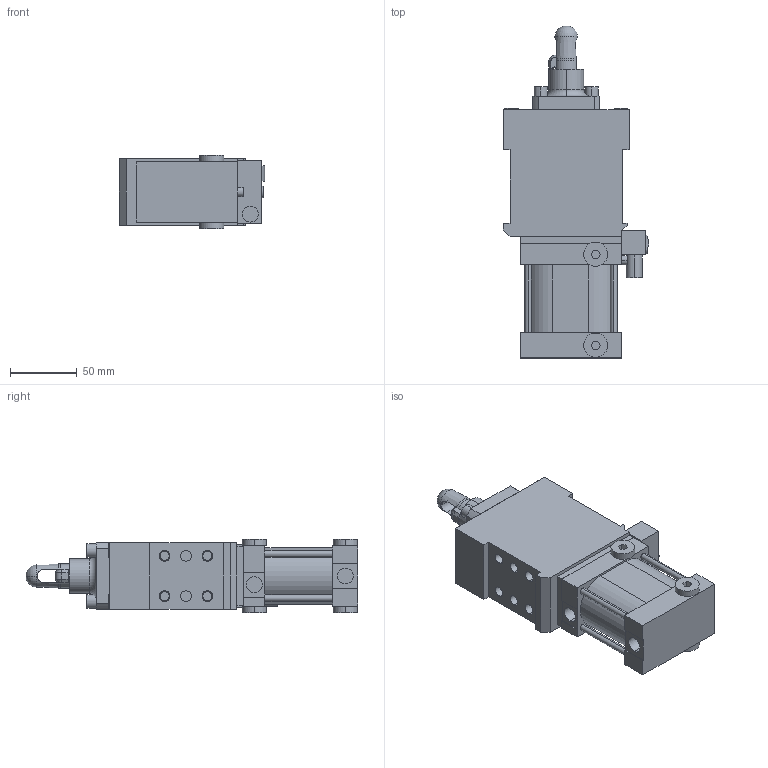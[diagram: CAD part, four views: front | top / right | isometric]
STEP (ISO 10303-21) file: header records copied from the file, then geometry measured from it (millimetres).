
FILE_DESCRIPTION (( 'STEP AP203' ), '1' );
FILE_NAME ('dca50ri-08414nt3.STEP', '2017-02-17T13:34:36', ( '' ), ( '' ), 'SwSTEP 2.0', 'SolidWorks 2016', '' );
FILE_SCHEMA (( 'CONFIG_CONTROL_DESIGN' ));
Length unit declared in the file: millimetre
Products named in the file (1): dca50ri-08414nt3
Bounding box: 108.6 x 248 x 55 mm (x, y, z)
Volume: 736164.8 mm3; surface area: 117097.4 mm2
Topology: 11 solids, 11 shells, 442 faces, 1025 edges, 671 vertices
Faces by surface type: plane 261, cylinder 152, cone 21, torus 8
Entity records: 12777 total; most frequent: CARTESIAN_POINT 2333, DIRECTION 2218, ORIENTED_EDGE 2050, EDGE_CURVE 1025, AXIS2_PLACEMENT_3D 780, VERTEX_POINT 671, LINE 658, VECTOR 658
